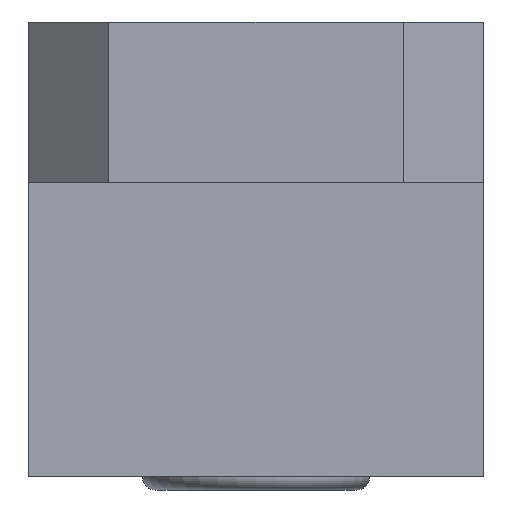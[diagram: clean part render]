
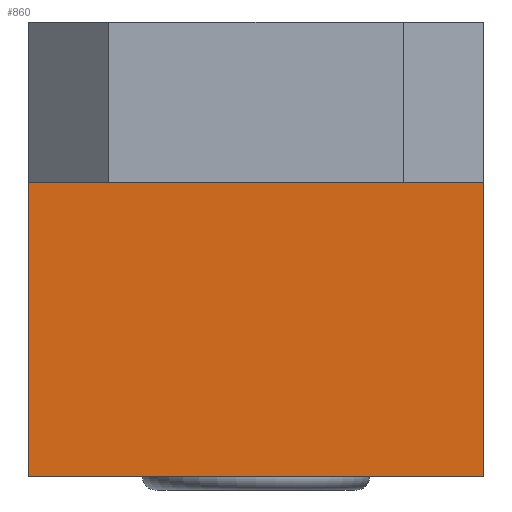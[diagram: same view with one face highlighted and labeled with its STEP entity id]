
A CAD part, front view. The second image highlights one B-rep face of the part: STEP entity #860.
In plain terms, the highlighted planar face has unit normal (0, -1, 0).
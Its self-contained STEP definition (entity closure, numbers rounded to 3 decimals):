
#860=ADVANCED_FACE('',(#1626),#1627,.F.);
#1626=FACE_OUTER_BOUND('',#2367,.T.);
#1627=PLANE('',#2368);
#2367=EDGE_LOOP('',(#4606,#4607,#4608,#4609));
#2368=AXIS2_PLACEMENT_3D('',#4610,#4611,#4612);
#4606=ORIENTED_EDGE('',*,*,#5489,.F.);
#4607=ORIENTED_EDGE('',*,*,#5555,.F.);
#4608=ORIENTED_EDGE('',*,*,#5510,.T.);
#4609=ORIENTED_EDGE('',*,*,#5542,.T.);
#4610=CARTESIAN_POINT('',(95.839,-9.0,4.5));
#4611=DIRECTION('',(0.0,1.0,0.));
#4612=DIRECTION('',(0.0,0.,1.0));
#5489=EDGE_CURVE('',#6801,#6802,#6803,.T.);
#5510=EDGE_CURVE('',#6840,#6838,#6841,.T.);
#5542=EDGE_CURVE('',#6838,#6802,#6886,.T.);
#5555=EDGE_CURVE('',#6840,#6801,#6907,.T.);
#6801=VERTEX_POINT('',#8559);
#6802=VERTEX_POINT('',#8560);
#6803=LINE('',#8561,#8562);
#6838=VERTEX_POINT('',#8613);
#6840=VERTEX_POINT('',#8616);
#6841=LINE('',#8617,#8618);
#6886=LINE('',#8683,#8684);
#6907=LINE('',#8710,#8711);
#8559=CARTESIAN_POINT('',(-8.5,-9.0,-6.5));
#8560=CARTESIAN_POINT('',(-8.5,-9.0,4.5));
#8561=CARTESIAN_POINT('',(-8.5,-9.0,12.5));
#8562=VECTOR('',#9747,1.0);
#8613=CARTESIAN_POINT('',(8.5,-9.0,4.5));
#8616=CARTESIAN_POINT('',(8.5,-9.0,-6.5));
#8617=CARTESIAN_POINT('',(8.5,-9.0,4.5));
#8618=VECTOR('',#9765,1.0);
#8683=CARTESIAN_POINT('',(95.839,-9.0,4.5));
#8684=VECTOR('',#9798,1.0);
#8710=CARTESIAN_POINT('',(-12.5,-9.0,-6.5));
#8711=VECTOR('',#9816,1.0);
#9747=DIRECTION('',(0.,0.,1.0));
#9765=DIRECTION('',(0.,0.,1.0));
#9798=DIRECTION('',(-1.0,0.0,0.0));
#9816=DIRECTION('',(-1.0,0.0,0.0));
